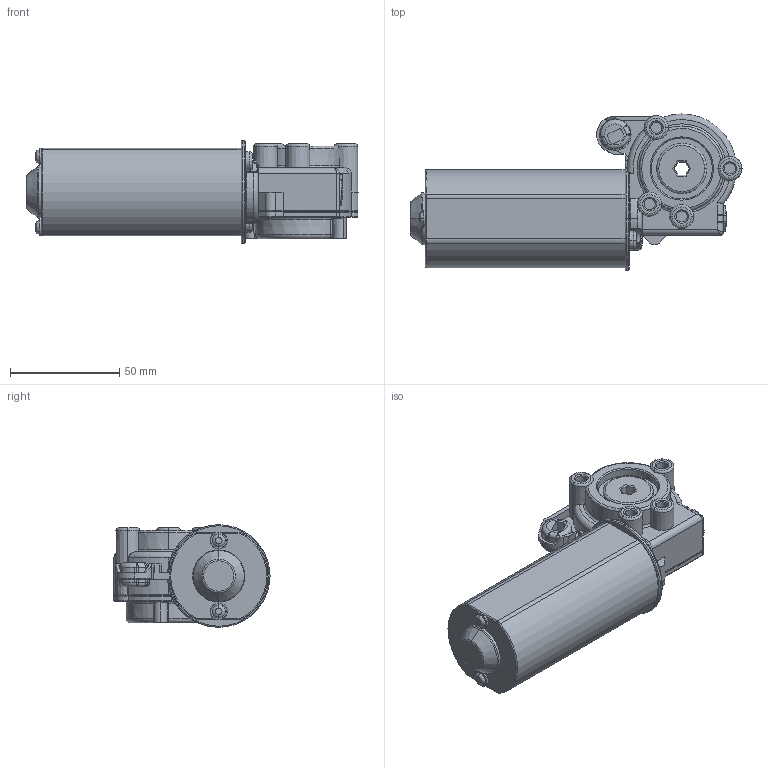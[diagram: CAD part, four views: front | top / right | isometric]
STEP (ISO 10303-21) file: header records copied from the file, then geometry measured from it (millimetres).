
FILE_DESCRIPTION (( 'STEP AP203' ), '1' );
FILE_NAME ('TGM3.STEP', '2012-08-23T10:11:03', ( 'Jeremy' ), ( '' ), 'SwSTEP 2.0', 'SolidWorks 2010', '' );
FILE_SCHEMA (( 'CONFIG_CONTROL_DESIGN' ));
Length unit declared in the file: millimetre
Products named in the file (1): TGM3
Bounding box: 152.1 x 71.5 x 47 mm (x, y, z)
Volume: 224371.2 mm3; surface area: 31948.9 mm2
Topology: 1 solids, 1 shells, 478 faces, 1158 edges, 702 vertices
Faces by surface type: cylinder 128, plane 118, torus 116, bspline 54, cone 52, sphere 10
Entity records: 21321 total; most frequent: CARTESIAN_POINT 10264, DIRECTION 2349, ORIENTED_EDGE 2314, EDGE_CURVE 1157, AXIS2_PLACEMENT_3D 997, VERTEX_POINT 702, CIRCLE 572, EDGE_LOOP 501
